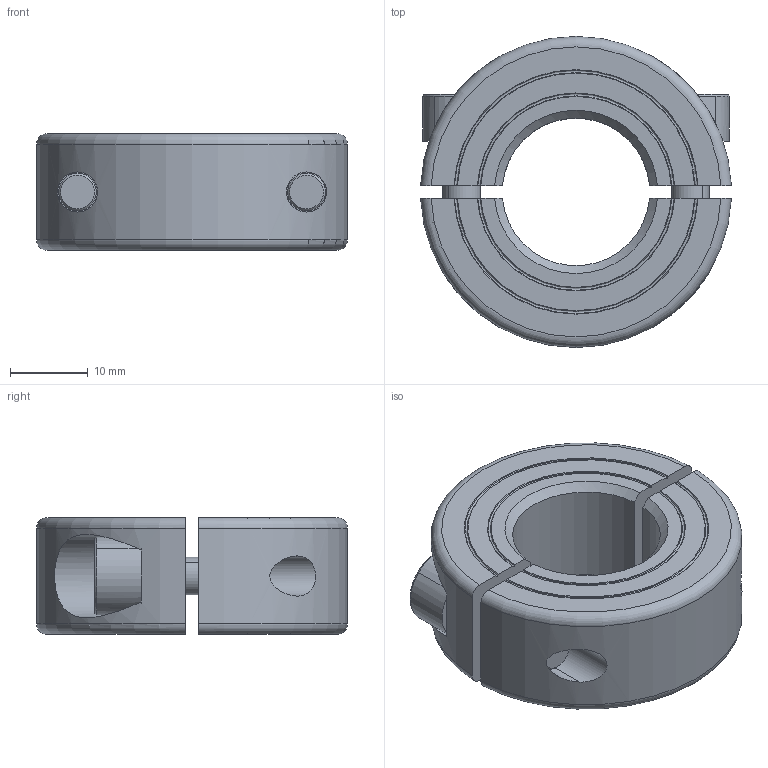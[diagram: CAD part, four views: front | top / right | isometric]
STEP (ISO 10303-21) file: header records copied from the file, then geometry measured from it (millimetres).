
FILE_DESCRIPTION((''),'2;1');
FILE_NAME('MSP-19-X','2016-09-09T',('SYSTEM'),(''),'PRO/ENGINEER BY PARAMETRIC TECHNOLOGY CORPORATION, 2015110','PRO/ENGINEER BY PARAMETRIC TECHNOLOGY CORPORATION, 2015110','');
FILE_SCHEMA(('AUTOMOTIVE_DESIGN { 1 0 10303 214 1 1 1 1 }'));
Length unit declared in the file: inch
Products named in the file (1): MSP-19-X
Bounding box: 39.97 x 40 x 15 mm (x, y, z)
Volume: 13292.5 mm3; surface area: 6814.5 mm2
Topology: 2 solids, 2 shells, 90 faces, 222 edges, 144 vertices
Faces by surface type: plane 36, cylinder 26, cone 20, torus 8
Entity records: 3629 total; most frequent: CARTESIAN_POINT 820, ORIENTED_EDGE 444, DIRECTION 430, EDGE_CURVE 222, AXIS2_PLACEMENT_3D 168, VERTEX_POINT 144, EDGE_LOOP 102, VECTOR 94
